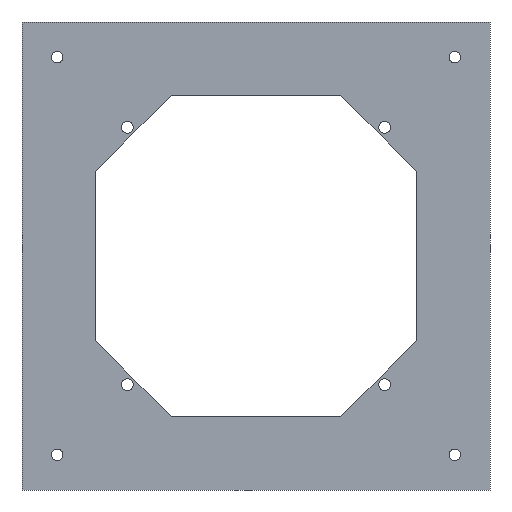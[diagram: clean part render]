
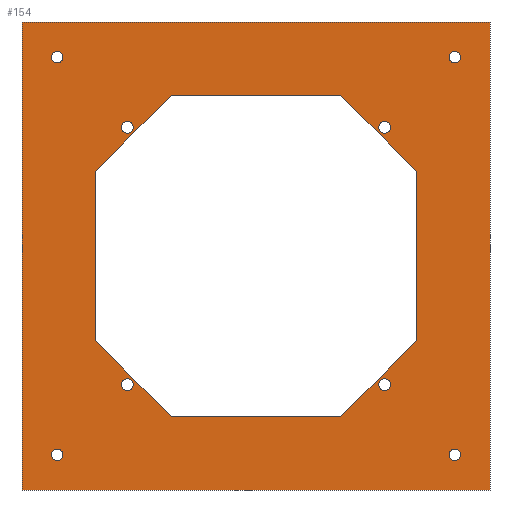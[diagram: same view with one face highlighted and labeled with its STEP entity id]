
A CAD part, front view. The second image highlights one B-rep face of the part: STEP entity #154.
In plain terms, the highlighted planar face has unit normal (0, -1, 0).
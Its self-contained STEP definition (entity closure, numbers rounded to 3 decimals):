
#154=ADVANCED_FACE('',(#331,#332,#333,#334,#335,#336,#337,#338,#339,#340),#341,.F.);
#331=FACE_BOUND('',#546,.T.);
#332=FACE_BOUND('',#547,.T.);
#333=FACE_BOUND('',#548,.T.);
#334=FACE_BOUND('',#549,.T.);
#335=FACE_BOUND('',#550,.T.);
#336=FACE_BOUND('',#551,.T.);
#337=FACE_BOUND('',#552,.T.);
#338=FACE_BOUND('',#553,.T.);
#339=FACE_BOUND('',#554,.T.);
#340=FACE_OUTER_BOUND('',#555,.T.);
#341=PLANE('',#556);
#546=EDGE_LOOP('',(#933,#934));
#547=EDGE_LOOP('',(#935,#936));
#548=EDGE_LOOP('',(#937,#938));
#549=EDGE_LOOP('',(#939,#940));
#550=EDGE_LOOP('',(#941,#942));
#551=EDGE_LOOP('',(#943,#944));
#552=EDGE_LOOP('',(#945,#946));
#553=EDGE_LOOP('',(#947,#948));
#554=EDGE_LOOP('',(#949,#950,#951,#952,#953,#954,#955,#956));
#555=EDGE_LOOP('',(#957,#958,#959,#960));
#556=AXIS2_PLACEMENT_3D('',#961,#962,#963);
#933=ORIENTED_EDGE('',*,*,#1310,.T.);
#934=ORIENTED_EDGE('',*,*,#1279,.T.);
#935=ORIENTED_EDGE('',*,*,#1313,.T.);
#936=ORIENTED_EDGE('',*,*,#1274,.T.);
#937=ORIENTED_EDGE('',*,*,#1316,.T.);
#938=ORIENTED_EDGE('',*,*,#1269,.T.);
#939=ORIENTED_EDGE('',*,*,#1319,.T.);
#940=ORIENTED_EDGE('',*,*,#1264,.T.);
#941=ORIENTED_EDGE('',*,*,#1322,.T.);
#942=ORIENTED_EDGE('',*,*,#1259,.T.);
#943=ORIENTED_EDGE('',*,*,#1324,.T.);
#944=ORIENTED_EDGE('',*,*,#1254,.T.);
#945=ORIENTED_EDGE('',*,*,#1326,.T.);
#946=ORIENTED_EDGE('',*,*,#1249,.T.);
#947=ORIENTED_EDGE('',*,*,#1328,.T.);
#948=ORIENTED_EDGE('',*,*,#1244,.T.);
#949=ORIENTED_EDGE('',*,*,#1339,.T.);
#950=ORIENTED_EDGE('',*,*,#1368,.T.);
#951=ORIENTED_EDGE('',*,*,#1335,.T.);
#952=ORIENTED_EDGE('',*,*,#1369,.T.);
#953=ORIENTED_EDGE('',*,*,#1331,.T.);
#954=ORIENTED_EDGE('',*,*,#1370,.T.);
#955=ORIENTED_EDGE('',*,*,#1343,.T.);
#956=ORIENTED_EDGE('',*,*,#1371,.T.);
#957=ORIENTED_EDGE('',*,*,#1372,.T.);
#958=ORIENTED_EDGE('',*,*,#1364,.F.);
#959=ORIENTED_EDGE('',*,*,#1373,.F.);
#960=ORIENTED_EDGE('',*,*,#1361,.F.);
#961=CARTESIAN_POINT('',(0.0,0.0,0.0));
#962=DIRECTION('',(0.0,1.0,0.0));
#963=DIRECTION('',(0.0,0.0,1.0));
#1244=EDGE_CURVE('',#1486,#1490,#1492,.T.);
#1249=EDGE_CURVE('',#1495,#1499,#1501,.T.);
#1254=EDGE_CURVE('',#1504,#1508,#1510,.T.);
#1259=EDGE_CURVE('',#1513,#1517,#1519,.T.);
#1264=EDGE_CURVE('',#1522,#1526,#1528,.T.);
#1269=EDGE_CURVE('',#1531,#1535,#1537,.T.);
#1274=EDGE_CURVE('',#1540,#1544,#1546,.T.);
#1279=EDGE_CURVE('',#1549,#1553,#1555,.T.);
#1310=EDGE_CURVE('',#1553,#1549,#1606,.T.);
#1313=EDGE_CURVE('',#1544,#1540,#1609,.T.);
#1316=EDGE_CURVE('',#1535,#1531,#1612,.T.);
#1319=EDGE_CURVE('',#1526,#1522,#1615,.T.);
#1322=EDGE_CURVE('',#1517,#1513,#1618,.T.);
#1324=EDGE_CURVE('',#1508,#1504,#1620,.T.);
#1326=EDGE_CURVE('',#1499,#1495,#1622,.T.);
#1328=EDGE_CURVE('',#1490,#1486,#1624,.T.);
#1331=EDGE_CURVE('',#1628,#1626,#1629,.T.);
#1335=EDGE_CURVE('',#1634,#1632,#1635,.T.);
#1339=EDGE_CURVE('',#1640,#1638,#1641,.T.);
#1343=EDGE_CURVE('',#1646,#1644,#1647,.T.);
#1361=EDGE_CURVE('',#1671,#1666,#1673,.T.);
#1364=EDGE_CURVE('',#1676,#1678,#1679,.T.);
#1368=EDGE_CURVE('',#1638,#1634,#1684,.T.);
#1369=EDGE_CURVE('',#1632,#1628,#1685,.T.);
#1370=EDGE_CURVE('',#1626,#1646,#1686,.T.);
#1371=EDGE_CURVE('',#1644,#1640,#1687,.T.);
#1372=EDGE_CURVE('',#1671,#1678,#1688,.T.);
#1373=EDGE_CURVE('',#1666,#1676,#1689,.T.);
#1486=VERTEX_POINT('',#1834);
#1490=VERTEX_POINT('',#1839);
#1492=CIRCLE('',#1842,7.5);
#1495=VERTEX_POINT('',#1845);
#1499=VERTEX_POINT('',#1850);
#1501=CIRCLE('',#1853,7.5);
#1504=VERTEX_POINT('',#1856);
#1508=VERTEX_POINT('',#1861);
#1510=CIRCLE('',#1864,7.5);
#1513=VERTEX_POINT('',#1867);
#1517=VERTEX_POINT('',#1872);
#1519=CIRCLE('',#1875,7.5);
#1522=VERTEX_POINT('',#1878);
#1526=VERTEX_POINT('',#1883);
#1528=CIRCLE('',#1886,7.5);
#1531=VERTEX_POINT('',#1889);
#1535=VERTEX_POINT('',#1894);
#1537=CIRCLE('',#1897,7.5);
#1540=VERTEX_POINT('',#1900);
#1544=VERTEX_POINT('',#1905);
#1546=CIRCLE('',#1908,7.5);
#1549=VERTEX_POINT('',#1911);
#1553=VERTEX_POINT('',#1916);
#1555=CIRCLE('',#1919,7.5);
#1606=CIRCLE('',#1990,7.5);
#1609=CIRCLE('',#1993,7.5);
#1612=CIRCLE('',#1996,7.5);
#1615=CIRCLE('',#1999,7.5);
#1618=CIRCLE('',#2002,7.5);
#1620=CIRCLE('',#2004,7.5);
#1622=CIRCLE('',#2006,7.5);
#1624=CIRCLE('',#2008,7.5);
#1626=VERTEX_POINT('',#2010);
#1628=VERTEX_POINT('',#2013);
#1629=LINE('',#2014,#2015);
#1632=VERTEX_POINT('',#2019);
#1634=VERTEX_POINT('',#2022);
#1635=LINE('',#2023,#2024);
#1638=VERTEX_POINT('',#2028);
#1640=VERTEX_POINT('',#2031);
#1641=LINE('',#2032,#2033);
#1644=VERTEX_POINT('',#2037);
#1646=VERTEX_POINT('',#2040);
#1647=LINE('',#2041,#2042);
#1666=VERTEX_POINT('',#2070);
#1671=VERTEX_POINT('',#2077);
#1673=LINE('',#2080,#2081);
#1676=VERTEX_POINT('',#2084);
#1678=VERTEX_POINT('',#2087);
#1679=LINE('',#2088,#2089);
#1684=LINE('',#2096,#2097);
#1685=LINE('',#2098,#2099);
#1686=LINE('',#2100,#2101);
#1687=LINE('',#2102,#2103);
#1688=LINE('',#2104,#2105);
#1689=LINE('',#2106,#2107);
#1834=CARTESIAN_POINT('',(-157.5,0.0,-165.0));
#1839=CARTESIAN_POINT('',(-172.5,0.0,-165.0));
#1842=AXIS2_PLACEMENT_3D('',#2285,#2286,#2287);
#1845=CARTESIAN_POINT('',(-165.0,0.0,157.5));
#1850=CARTESIAN_POINT('',(-165.0,0.0,172.5));
#1853=AXIS2_PLACEMENT_3D('',#2293,#2294,#2295);
#1856=CARTESIAN_POINT('',(157.5,0.0,165.0));
#1861=CARTESIAN_POINT('',(172.5,0.0,165.0));
#1864=AXIS2_PLACEMENT_3D('',#2301,#2302,#2303);
#1867=CARTESIAN_POINT('',(165.0,0.0,-157.5));
#1872=CARTESIAN_POINT('',(165.0,0.0,-172.5));
#1875=AXIS2_PLACEMENT_3D('',#2309,#2310,#2311);
#1878=CARTESIAN_POINT('',(-247.5,0.0,-255.0));
#1883=CARTESIAN_POINT('',(-262.5,0.0,-255.0));
#1886=AXIS2_PLACEMENT_3D('',#2317,#2318,#2319);
#1889=CARTESIAN_POINT('',(-255.0,0.0,247.5));
#1894=CARTESIAN_POINT('',(-255.0,0.0,262.5));
#1897=AXIS2_PLACEMENT_3D('',#2325,#2326,#2327);
#1900=CARTESIAN_POINT('',(247.5,0.0,255.0));
#1905=CARTESIAN_POINT('',(262.5,0.0,255.0));
#1908=AXIS2_PLACEMENT_3D('',#2333,#2334,#2335);
#1911=CARTESIAN_POINT('',(255.0,0.0,-247.5));
#1916=CARTESIAN_POINT('',(255.0,0.0,-262.5));
#1919=AXIS2_PLACEMENT_3D('',#2341,#2342,#2343);
#1990=AXIS2_PLACEMENT_3D('',#2376,#2377,#2378);
#1993=AXIS2_PLACEMENT_3D('',#2382,#2383,#2384);
#1996=AXIS2_PLACEMENT_3D('',#2388,#2389,#2390);
#1999=AXIS2_PLACEMENT_3D('',#2394,#2395,#2396);
#2002=AXIS2_PLACEMENT_3D('',#2400,#2401,#2402);
#2004=AXIS2_PLACEMENT_3D('',#2403,#2404,#2405);
#2006=AXIS2_PLACEMENT_3D('',#2406,#2407,#2408);
#2008=AXIS2_PLACEMENT_3D('',#2409,#2410,#2411);
#2010=CARTESIAN_POINT('',(108.75,0.0,-205.5));
#2013=CARTESIAN_POINT('',(205.5,0.0,-108.75));
#2014=CARTESIAN_POINT('',(157.125,0.,-157.125));
#2015=VECTOR('',#2413,1.0);
#2019=CARTESIAN_POINT('',(205.5,0.0,108.75));
#2022=CARTESIAN_POINT('',(108.75,0.0,205.5));
#2023=CARTESIAN_POINT('',(157.125,0.,157.125));
#2024=VECTOR('',#2416,1.0);
#2028=CARTESIAN_POINT('',(-108.75,0.0,205.5));
#2031=CARTESIAN_POINT('',(-205.5,0.0,108.75));
#2032=CARTESIAN_POINT('',(-157.125,0.,157.125));
#2033=VECTOR('',#2419,1.0);
#2037=CARTESIAN_POINT('',(-205.5,0.0,-108.75));
#2040=CARTESIAN_POINT('',(-108.75,0.0,-205.5));
#2041=CARTESIAN_POINT('',(-157.125,0.,-157.125));
#2042=VECTOR('',#2422,1.0);
#2070=CARTESIAN_POINT('',(300.0,0.0,300.0));
#2077=CARTESIAN_POINT('',(-300.0,0.0,300.0));
#2080=CARTESIAN_POINT('',(0.0,0.0,300.0));
#2081=VECTOR('',#2435,1.0);
#2084=CARTESIAN_POINT('',(300.0,0.0,-300.0));
#2087=CARTESIAN_POINT('',(-300.0,0.0,-300.0));
#2088=CARTESIAN_POINT('',(0.0,0.0,-300.0));
#2089=VECTOR('',#2437,1.0);
#2096=CARTESIAN_POINT('',(0.0,0.0,205.5));
#2097=VECTOR('',#2440,1.0);
#2098=CARTESIAN_POINT('',(205.5,0.0,0.0));
#2099=VECTOR('',#2441,1.0);
#2100=CARTESIAN_POINT('',(0.0,0.0,-205.5));
#2101=VECTOR('',#2442,1.0);
#2102=CARTESIAN_POINT('',(-205.5,0.0,0.0));
#2103=VECTOR('',#2443,1.0);
#2104=CARTESIAN_POINT('',(-300.0,0.0,0.0));
#2105=VECTOR('',#2444,1.0);
#2106=CARTESIAN_POINT('',(300.0,0.0,0.0));
#2107=VECTOR('',#2445,1.0);
#2285=CARTESIAN_POINT('',(-165.0,0.0,-165.0));
#2286=DIRECTION('',(-0.0,1.0,0.0));
#2287=DIRECTION('',(1.0,0.0,0.0));
#2293=CARTESIAN_POINT('',(-165.0,0.0,165.0));
#2294=DIRECTION('',(0.0,1.0,0.0));
#2295=DIRECTION('',(0.,0.0,-1.0));
#2301=CARTESIAN_POINT('',(165.0,0.0,165.0));
#2302=DIRECTION('',(0.0,1.0,0.0));
#2303=DIRECTION('',(-1.0,0.0,0.));
#2309=CARTESIAN_POINT('',(165.0,0.0,-165.0));
#2310=DIRECTION('',(0.0,1.0,0.0));
#2311=DIRECTION('',(0.,0.0,1.0));
#2317=CARTESIAN_POINT('',(-255.0,0.0,-255.0));
#2318=DIRECTION('',(-0.0,1.0,0.0));
#2319=DIRECTION('',(1.0,0.0,0.0));
#2325=CARTESIAN_POINT('',(-255.0,0.0,255.0));
#2326=DIRECTION('',(0.0,1.0,0.0));
#2327=DIRECTION('',(0.,0.0,-1.0));
#2333=CARTESIAN_POINT('',(255.0,0.0,255.0));
#2334=DIRECTION('',(0.0,1.0,0.0));
#2335=DIRECTION('',(-1.0,0.0,0.));
#2341=CARTESIAN_POINT('',(255.0,0.0,-255.0));
#2342=DIRECTION('',(0.0,1.0,0.0));
#2343=DIRECTION('',(0.,0.0,1.0));
#2376=CARTESIAN_POINT('',(255.0,0.0,-255.0));
#2377=DIRECTION('',(0.0,1.0,0.0));
#2378=DIRECTION('',(0.,0.0,1.0));
#2382=CARTESIAN_POINT('',(255.0,0.0,255.0));
#2383=DIRECTION('',(0.0,1.0,0.0));
#2384=DIRECTION('',(-1.0,0.0,0.));
#2388=CARTESIAN_POINT('',(-255.0,0.0,255.0));
#2389=DIRECTION('',(0.0,1.0,0.0));
#2390=DIRECTION('',(0.,0.0,-1.0));
#2394=CARTESIAN_POINT('',(-255.0,0.0,-255.0));
#2395=DIRECTION('',(-0.0,1.0,0.0));
#2396=DIRECTION('',(1.0,0.0,0.0));
#2400=CARTESIAN_POINT('',(165.0,0.0,-165.0));
#2401=DIRECTION('',(0.0,1.0,0.0));
#2402=DIRECTION('',(0.,0.0,1.0));
#2403=CARTESIAN_POINT('',(165.0,0.0,165.0));
#2404=DIRECTION('',(0.0,1.0,0.0));
#2405=DIRECTION('',(-1.0,0.0,0.));
#2406=CARTESIAN_POINT('',(-165.0,0.0,165.0));
#2407=DIRECTION('',(0.0,1.0,0.0));
#2408=DIRECTION('',(0.,0.0,-1.0));
#2409=CARTESIAN_POINT('',(-165.0,0.0,-165.0));
#2410=DIRECTION('',(-0.0,1.0,0.0));
#2411=DIRECTION('',(1.0,0.0,0.0));
#2413=DIRECTION('',(-0.707,0.0,-0.707));
#2416=DIRECTION('',(0.707,0.0,-0.707));
#2419=DIRECTION('',(0.707,-0.0,0.707));
#2422=DIRECTION('',(-0.707,0.0,0.707));
#2435=DIRECTION('',(1.0,0.0,0.0));
#2437=DIRECTION('',(-1.0,0.0,0.0));
#2440=DIRECTION('',(1.0,0.0,0.0));
#2441=DIRECTION('',(0.0,0.0,-1.0));
#2442=DIRECTION('',(-1.0,0.0,0.0));
#2443=DIRECTION('',(0.0,0.0,1.0));
#2444=DIRECTION('',(0.0,0.0,-1.0));
#2445=DIRECTION('',(0.0,0.0,-1.0));
